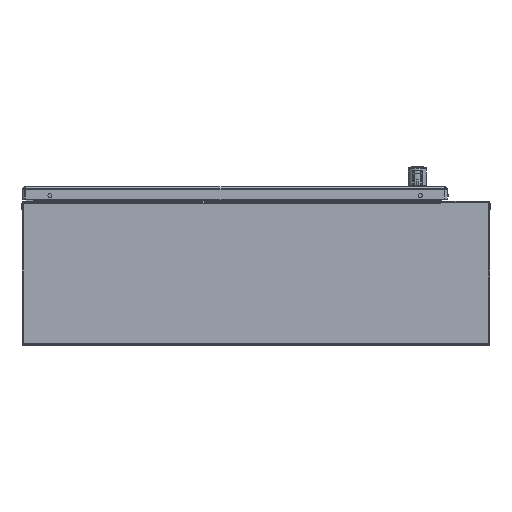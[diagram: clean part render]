
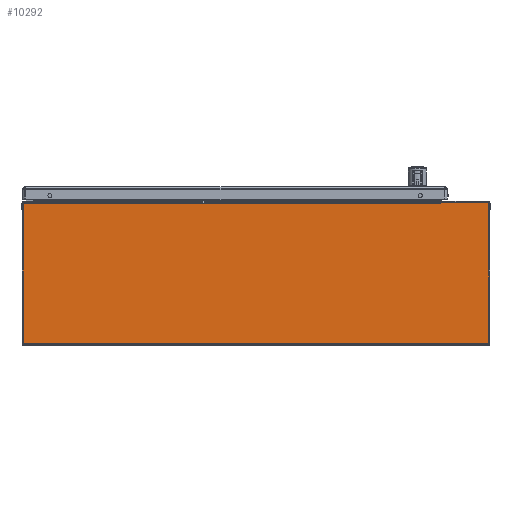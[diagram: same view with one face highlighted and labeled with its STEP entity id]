
A CAD part, front view. The second image highlights one B-rep face of the part: STEP entity #10292.
In plain terms, the highlighted planar face has unit normal (0, -1, 0).
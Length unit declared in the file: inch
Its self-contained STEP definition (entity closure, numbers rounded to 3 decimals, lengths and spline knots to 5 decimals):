
#5031 = EDGE_CURVE ( 'NONE', #17149, #8686, #11073, .T. ) ;
#5446 = EDGE_CURVE ( 'NONE', #42294, #88527, #68922, .T. ) ;
#7125 = DIRECTION ( 'NONE',  ( 0., 0., 1. ) ) ;
#8603 = CARTESIAN_POINT ( 'NONE',  ( -12.206, -18., 0.115 ) ) ;
#8686 = VERTEX_POINT ( 'NONE', #35869 ) ;
#10292 = ADVANCED_FACE ( 'NONE', ( #81130 ), #71145, .F. ) ;
#10631 = CARTESIAN_POINT ( 'NONE',  ( 10.99046, -18., 8. ) ) ;
#10808 = VERTEX_POINT ( 'NONE', #85582 ) ;
#11073 = LINE ( 'NONE', #65647, #17943 ) ;
#12349 = DIRECTION ( 'NONE',  ( 0., 0., 1. ) ) ;
#14929 = ORIENTED_EDGE ( 'NONE', *, *, #88838, .T. ) ;
#17130 = ORIENTED_EDGE ( 'NONE', *, *, #36342, .F. ) ;
#17149 = VERTEX_POINT ( 'NONE', #46740 ) ;
#17943 = VECTOR ( 'NONE', #65046, 39.37008 ) ;
#20222 = VECTOR ( 'NONE', #12349, 39.37008 ) ;
#20443 = DIRECTION ( 'NONE',  ( 0., 0., 1. ) ) ;
#21838 = CIRCLE ( 'NONE', #93830, 0.0877 ) ;
#25440 = DIRECTION ( 'NONE',  ( 1., 0., 0. ) ) ;
#27772 = EDGE_CURVE ( 'NONE', #73482, #83521, #51283, .T. ) ;
#30962 = VECTOR ( 'NONE', #25440, 39.37008 ) ;
#31367 = EDGE_LOOP ( 'NONE', ( #47715, #14929, #33882, #64855, #66260, #17130, #41181 ) ) ;
#33882 = ORIENTED_EDGE ( 'NONE', *, *, #27772, .F. ) ;
#35869 = CARTESIAN_POINT ( 'NONE',  ( -12.15029, -18., 7.855 ) ) ;
#36342 = EDGE_CURVE ( 'NONE', #10808, #8686, #77504, .T. ) ;
#36693 = VECTOR ( 'NONE', #44108, 39.37008 ) ;
#41181 = ORIENTED_EDGE ( 'NONE', *, *, #50419, .F. ) ;
#41225 = CARTESIAN_POINT ( 'NONE',  ( 13.68829, -18., 8. ) ) ;
#42294 = VERTEX_POINT ( 'NONE', #54919 ) ;
#44108 = DIRECTION ( 'NONE',  ( -1., 0., 0. ) ) ;
#46740 = CARTESIAN_POINT ( 'NONE',  ( 10.99046, -18., 7.855 ) ) ;
#47715 = ORIENTED_EDGE ( 'NONE', *, *, #5446, .T. ) ;
#50419 = EDGE_CURVE ( 'NONE', #42294, #10808, #84394, .T. ) ;
#51283 = LINE ( 'NONE', #90474, #30962 ) ;
#52397 = CARTESIAN_POINT ( 'NONE',  ( -12.15029, -18., 0.055 ) ) ;
#54919 = CARTESIAN_POINT ( 'NONE',  ( 13.68829, -18., 0.115 ) ) ;
#56084 = CARTESIAN_POINT ( 'NONE',  ( 13.60059, -18., 7.9453 ) ) ;
#57514 = DIRECTION ( 'NONE',  ( 0., 1., 0. ) ) ;
#61033 = DIRECTION ( 'NONE',  ( 0., 0., 1. ) ) ;
#63827 = DIRECTION ( 'NONE',  ( 0., -1., 0. ) ) ;
#64279 = EDGE_CURVE ( 'NONE', #17149, #73482, #89179, .T. ) ;
#64855 = ORIENTED_EDGE ( 'NONE', *, *, #64279, .F. ) ;
#65046 = DIRECTION ( 'NONE',  ( -1., 0., 0. ) ) ;
#65510 = CARTESIAN_POINT ( 'NONE',  ( 10.99046, -18., 7.9453 ) ) ;
#65647 = CARTESIAN_POINT ( 'NONE',  ( 10.99046, -18., 7.855 ) ) ;
#66260 = ORIENTED_EDGE ( 'NONE', *, *, #5031, .T. ) ;
#68416 = VECTOR ( 'NONE', #88339, 39.37008 ) ;
#68922 = LINE ( 'NONE', #41225, #20222 ) ;
#71145 = PLANE ( 'NONE',  #90993 ) ;
#73482 = VERTEX_POINT ( 'NONE', #65510 ) ;
#77504 = LINE ( 'NONE', #52397, #68416 ) ;
#78089 = CARTESIAN_POINT ( 'NONE',  ( 13.60059, -18., 7.8576 ) ) ;
#79082 = CARTESIAN_POINT ( 'NONE',  ( -12.206, -18., 8. ) ) ;
#81024 = CARTESIAN_POINT ( 'NONE',  ( 13.68829, -18., 7.8576 ) ) ;
#81130 = FACE_OUTER_BOUND ( 'NONE', #31367, .T. ) ;
#83521 = VERTEX_POINT ( 'NONE', #56084 ) ;
#84394 = LINE ( 'NONE', #8603, #36693 ) ;
#85582 = CARTESIAN_POINT ( 'NONE',  ( -12.15029, -18., 0.115 ) ) ;
#88075 = VECTOR ( 'NONE', #61033, 39.37008 ) ;
#88339 = DIRECTION ( 'NONE',  ( 0., 0., 1. ) ) ;
#88527 = VERTEX_POINT ( 'NONE', #81024 ) ;
#88838 = EDGE_CURVE ( 'NONE', #88527, #83521, #21838, .T. ) ;
#89179 = LINE ( 'NONE', #10631, #88075 ) ;
#90474 = CARTESIAN_POINT ( 'NONE',  ( 10.99046, -18., 7.9453 ) ) ;
#90993 = AXIS2_PLACEMENT_3D ( 'NONE', #79082, #57514, #7125 ) ;
#93830 = AXIS2_PLACEMENT_3D ( 'NONE', #78089, #63827, #20443 ) ;
